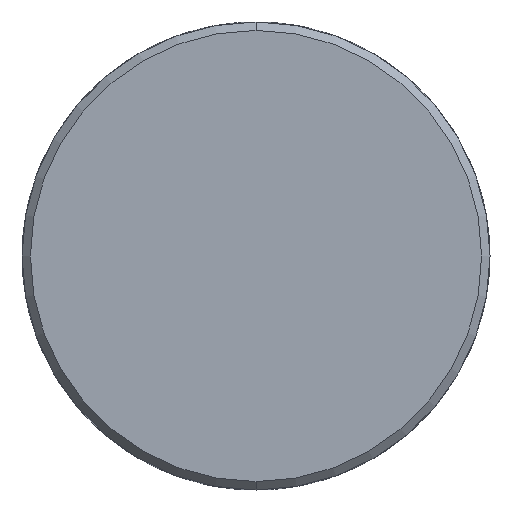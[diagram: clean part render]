
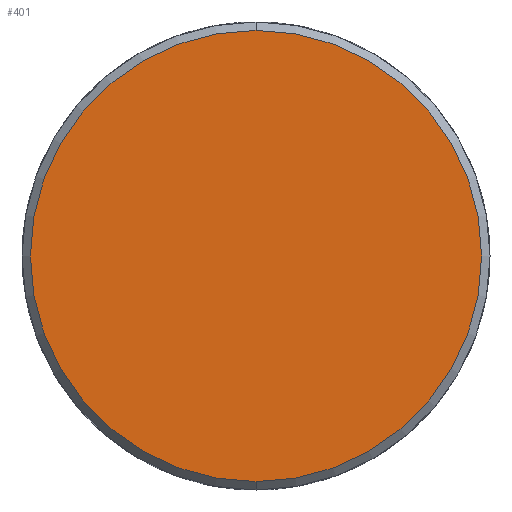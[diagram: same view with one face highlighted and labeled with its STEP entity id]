
A CAD part, front view. The second image highlights one B-rep face of the part: STEP entity #401.
In plain terms, the highlighted planar face has unit normal (0, -1, 0).
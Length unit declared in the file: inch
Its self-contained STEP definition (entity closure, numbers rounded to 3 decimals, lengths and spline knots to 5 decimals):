
#363 = EDGE_LOOP ( 'NONE', ( #369, #884 ) ) ;
#369 = ORIENTED_EDGE ( 'NONE', *, *, #873, .T. ) ;
#401 = ADVANCED_FACE ( 'NONE', ( #1721 ), #1720, .F. ) ;
#873 = EDGE_CURVE ( 'NONE', #3759, #3763, #2660, .T. ) ;
#884 = ORIENTED_EDGE ( 'NONE', *, *, #3762, .T. ) ;
#1715 = DIRECTION ( 'NONE',  ( 0., 0., 1. ) ) ;
#1716 = DIRECTION ( 'NONE',  ( 0., 1., 0. ) ) ;
#1717 = AXIS2_PLACEMENT_3D ( 'NONE', #1719, #1716, #1715 ) ;
#1719 = CARTESIAN_POINT ( 'NONE',  ( 0., 0., 0. ) ) ;
#1720 = PLANE ( 'NONE',  #1717 ) ;
#1721 = FACE_OUTER_BOUND ( 'NONE', #363, .T. ) ;
#2657 = DIRECTION ( 'NONE',  ( 0., 0., 1. ) ) ;
#2658 = DIRECTION ( 'NONE',  ( 0., -1., 0. ) ) ;
#2659 = AXIS2_PLACEMENT_3D ( 'NONE', #2664, #2658, #2657 ) ;
#2660 = CIRCLE ( 'NONE', #2659, 1.663 ) ;
#2664 = CARTESIAN_POINT ( 'NONE',  ( 0., 0., 0. ) ) ;
#2865 = CARTESIAN_POINT ( 'NONE',  ( 0., 0., -1.663 ) ) ;
#2866 = DIRECTION ( 'NONE',  ( 0., 0., 1. ) ) ;
#2867 = DIRECTION ( 'NONE',  ( 0., -1., 0. ) ) ;
#2868 = CARTESIAN_POINT ( 'NONE',  ( 0., 0., 0. ) ) ;
#2869 = AXIS2_PLACEMENT_3D ( 'NONE', #2868, #2867, #2866 ) ;
#2870 = CIRCLE ( 'NONE', #2869, 1.663 ) ;
#2871 = CARTESIAN_POINT ( 'NONE',  ( 0., 0., 1.663 ) ) ;
#3759 = VERTEX_POINT ( 'NONE', #2871 ) ;
#3762 = EDGE_CURVE ( 'NONE', #3763, #3759, #2870, .T. ) ;
#3763 = VERTEX_POINT ( 'NONE', #2865 ) ;
